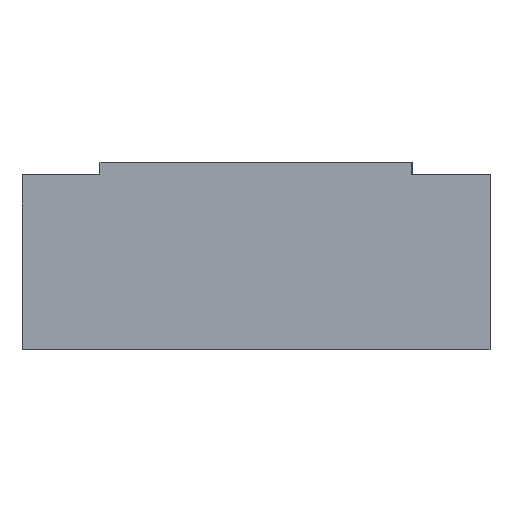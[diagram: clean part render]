
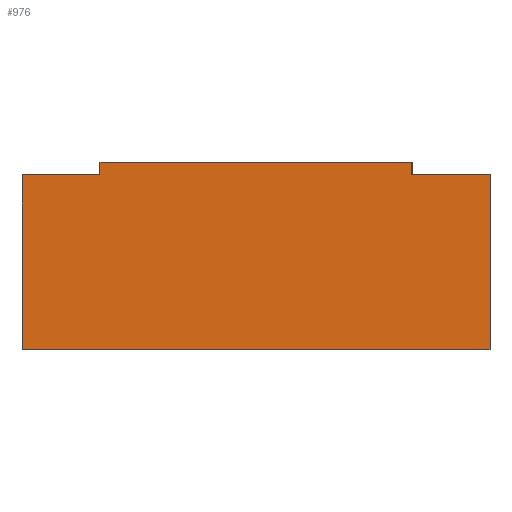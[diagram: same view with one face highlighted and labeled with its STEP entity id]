
A CAD part, left-side view. The second image highlights one B-rep face of the part: STEP entity #976.
In plain terms, the highlighted planar face has unit normal (-1, 0, 0).
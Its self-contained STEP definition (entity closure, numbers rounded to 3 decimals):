
#3 = VERTEX_POINT ( 'NONE', #115 ) ;
#33 = DIRECTION ( 'NONE',  ( 0., 0., -1. ) ) ;
#80 = CARTESIAN_POINT ( 'NONE',  ( -48., 25., 28. ) ) ;
#86 = EDGE_CURVE ( 'NONE', #3, #537, #780, .T. ) ;
#115 = CARTESIAN_POINT ( 'NONE',  ( -48., 25., 30. ) ) ;
#118 = LINE ( 'NONE', #1198, #139 ) ;
#139 = VECTOR ( 'NONE', #1304, 1000. ) ;
#172 = EDGE_CURVE ( 'NONE', #236, #699, #1039, .T. ) ;
#193 = VECTOR ( 'NONE', #988, 1000. ) ;
#202 = VECTOR ( 'NONE', #815, 1000. ) ;
#236 = VERTEX_POINT ( 'NONE', #409 ) ;
#296 = LINE ( 'NONE', #678, #1197 ) ;
#342 = ORIENTED_EDGE ( 'NONE', *, *, #706, .F. ) ;
#409 = CARTESIAN_POINT ( 'NONE',  ( -48., 37.5, 0. ) ) ;
#440 = VECTOR ( 'NONE', #721, 1000. ) ;
#449 = EDGE_LOOP ( 'NONE', ( #342, #567, #1289, #661, #1064, #1411, #1050, #1130 ) ) ;
#461 = VECTOR ( 'NONE', #539, 1000. ) ;
#483 = VERTEX_POINT ( 'NONE', #1193 ) ;
#496 = DIRECTION ( 'NONE',  ( 0., 0., 1. ) ) ;
#537 = VERTEX_POINT ( 'NONE', #1407 ) ;
#539 = DIRECTION ( 'NONE',  ( 0., -1., 0. ) ) ;
#567 = ORIENTED_EDGE ( 'NONE', *, *, #1078, .F. ) ;
#606 = CARTESIAN_POINT ( 'NONE',  ( -48., -37.5, 0. ) ) ;
#608 = VERTEX_POINT ( 'NONE', #1340 ) ;
#629 = VECTOR ( 'NONE', #33, 1000. ) ;
#648 = LINE ( 'NONE', #1274, #629 ) ;
#661 = ORIENTED_EDGE ( 'NONE', *, *, #86, .F. ) ;
#678 = CARTESIAN_POINT ( 'NONE',  ( -48., -37.5, 30. ) ) ;
#699 = VERTEX_POINT ( 'NONE', #1364 ) ;
#706 = EDGE_CURVE ( 'NONE', #1413, #699, #296, .T. ) ;
#721 = DIRECTION ( 'NONE',  ( 0., -1., 0. ) ) ;
#780 = LINE ( 'NONE', #1043, #202 ) ;
#781 = DIRECTION ( 'NONE',  ( 0., 0., -1. ) ) ;
#815 = DIRECTION ( 'NONE',  ( 0., -1., 0. ) ) ;
#843 = DIRECTION ( 'NONE',  ( 1., 0., 0. ) ) ;
#858 = EDGE_CURVE ( 'NONE', #537, #483, #648, .T. ) ;
#869 = CARTESIAN_POINT ( 'NONE',  ( -48., 25., 28. ) ) ;
#907 = LINE ( 'NONE', #1419, #461 ) ;
#922 = LINE ( 'NONE', #80, #1251 ) ;
#976 = ADVANCED_FACE ( 'NONE', ( #1454 ), #1449, .F. ) ;
#988 = DIRECTION ( 'NONE',  ( 0., 0., -1. ) ) ;
#994 = VERTEX_POINT ( 'NONE', #869 ) ;
#1005 = EDGE_CURVE ( 'NONE', #608, #236, #1350, .T. ) ;
#1014 = EDGE_CURVE ( 'NONE', #994, #3, #922, .T. ) ;
#1039 = LINE ( 'NONE', #606, #440 ) ;
#1043 = CARTESIAN_POINT ( 'NONE',  ( -48., -37.5, 30. ) ) ;
#1050 = ORIENTED_EDGE ( 'NONE', *, *, #1005, .T. ) ;
#1064 = ORIENTED_EDGE ( 'NONE', *, *, #1014, .F. ) ;
#1078 = EDGE_CURVE ( 'NONE', #483, #1413, #907, .T. ) ;
#1109 = DIRECTION ( 'NONE',  ( 0., 0., -1. ) ) ;
#1119 = EDGE_CURVE ( 'NONE', #608, #994, #118, .T. ) ;
#1130 = ORIENTED_EDGE ( 'NONE', *, *, #172, .T. ) ;
#1193 = CARTESIAN_POINT ( 'NONE',  ( -48., -25., 28. ) ) ;
#1197 = VECTOR ( 'NONE', #781, 1000. ) ;
#1198 = CARTESIAN_POINT ( 'NONE',  ( -48., 40.483, 28. ) ) ;
#1219 = CARTESIAN_POINT ( 'NONE',  ( -48., -37.5, 30. ) ) ;
#1240 = CARTESIAN_POINT ( 'NONE',  ( -48., -37.5, 28. ) ) ;
#1251 = VECTOR ( 'NONE', #496, 1000. ) ;
#1274 = CARTESIAN_POINT ( 'NONE',  ( -48., -25., 28. ) ) ;
#1289 = ORIENTED_EDGE ( 'NONE', *, *, #858, .F. ) ;
#1304 = DIRECTION ( 'NONE',  ( 0., -1., 0. ) ) ;
#1340 = CARTESIAN_POINT ( 'NONE',  ( -48., 37.5, 28. ) ) ;
#1341 = CARTESIAN_POINT ( 'NONE',  ( -48., 37.5, 30. ) ) ;
#1350 = LINE ( 'NONE', #1341, #193 ) ;
#1364 = CARTESIAN_POINT ( 'NONE',  ( -48., -37.5, 0. ) ) ;
#1407 = CARTESIAN_POINT ( 'NONE',  ( -48., -25., 30. ) ) ;
#1411 = ORIENTED_EDGE ( 'NONE', *, *, #1119, .F. ) ;
#1413 = VERTEX_POINT ( 'NONE', #1240 ) ;
#1419 = CARTESIAN_POINT ( 'NONE',  ( -48., -25., 28. ) ) ;
#1449 = PLANE ( 'NONE',  #1453 ) ;
#1453 = AXIS2_PLACEMENT_3D ( 'NONE', #1219, #843, #1109 ) ;
#1454 = FACE_OUTER_BOUND ( 'NONE', #449, .T. ) ;
